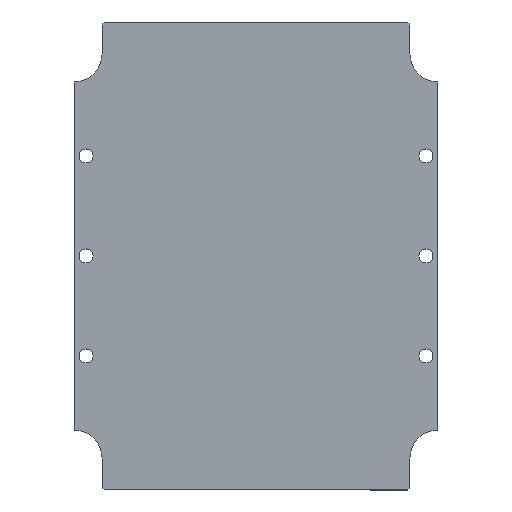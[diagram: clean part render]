
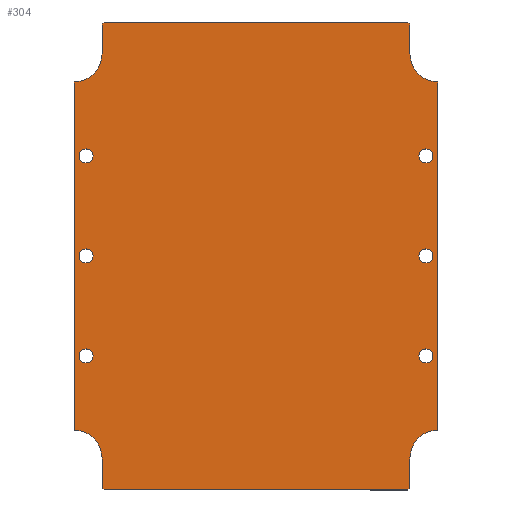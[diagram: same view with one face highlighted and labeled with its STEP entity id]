
A CAD part, top view. The second image highlights one B-rep face of the part: STEP entity #304.
In plain terms, the highlighted planar face has unit normal (0, 0, 1).
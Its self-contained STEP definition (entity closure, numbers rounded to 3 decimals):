
#59=CARTESIAN_POINT('',(-76.,-117.,0.0));
#60=VERTEX_POINT('',#59);
#67=CARTESIAN_POINT('',(-77.,-116.,0.0));
#68=VERTEX_POINT('',#67);
#69=CARTESIAN_POINT('',(-76.,-117.,0.0));
#70=DIRECTION('',(-0.707,0.707,0.0));
#71=VECTOR('',#70,1.414);
#72=LINE('',#69,#71);
#73=EDGE_CURVE('',#60,#68,#72,.T.);
#90=CARTESIAN_POINT('',(-77.,-101.,0.0));
#91=VERTEX_POINT('',#90);
#92=CARTESIAN_POINT('',(-77.,-116.,0.0));
#93=DIRECTION('',(0.0,1.0,0.0));
#94=VECTOR('',#93,15.);
#95=LINE('',#92,#94);
#96=EDGE_CURVE('',#68,#91,#95,.T.);
#115=CARTESIAN_POINT('',(0.,0.,0.0));
#116=DIRECTION('',(0.0,0.0,1.0));
#117=DIRECTION('',(1.0,0.0,0.0));
#118=AXIS2_PLACEMENT_3D('',#115,#116,#117);
#119=PLANE('',#118);
#120=ORIENTED_EDGE('',*,*,#73,.F.);
#121=CARTESIAN_POINT('',(76.,-117.,0.0));
#122=VERTEX_POINT('',#121);
#123=CARTESIAN_POINT('',(76.,-117.,0.0));
#124=DIRECTION('',(-1.0,0.0,0.0));
#125=VECTOR('',#124,152.);
#126=LINE('',#123,#125);
#127=EDGE_CURVE('',#122,#60,#126,.T.);
#128=ORIENTED_EDGE('',*,*,#127,.F.);
#129=CARTESIAN_POINT('',(77.,-116.,0.0));
#130=VERTEX_POINT('',#129);
#131=CARTESIAN_POINT('',(77.,-116.,0.0));
#132=DIRECTION('',(-0.707,-0.707,0.0));
#133=VECTOR('',#132,1.414);
#134=LINE('',#131,#133);
#135=EDGE_CURVE('',#130,#122,#134,.T.);
#136=ORIENTED_EDGE('',*,*,#135,.F.);
#137=CARTESIAN_POINT('',(77.,-101.,0.0));
#138=VERTEX_POINT('',#137);
#139=CARTESIAN_POINT('',(77.,-101.,0.0));
#140=DIRECTION('',(0.0,-1.0,0.0));
#141=VECTOR('',#140,15.0);
#142=LINE('',#139,#141);
#143=EDGE_CURVE('',#138,#130,#142,.T.);
#144=ORIENTED_EDGE('',*,*,#143,.F.);
#145=CARTESIAN_POINT('',(91.,-87.,0.0));
#146=VERTEX_POINT('',#145);
#147=CARTESIAN_POINT('',(91.,-101.,0.0));
#148=DIRECTION('',(0.0,0.0,1.0));
#149=DIRECTION('',(0.0,1.0,0.0));
#150=AXIS2_PLACEMENT_3D('',#147,#148,#149);
#151=CIRCLE('',#150,14.);
#152=EDGE_CURVE('',#146,#138,#151,.T.);
#153=ORIENTED_EDGE('',*,*,#152,.F.);
#154=CARTESIAN_POINT('',(91.,87.,0.0));
#155=VERTEX_POINT('',#154);
#156=CARTESIAN_POINT('',(91.,87.,0.0));
#157=DIRECTION('',(0.0,-1.0,0.0));
#158=VECTOR('',#157,174.);
#159=LINE('',#156,#158);
#160=EDGE_CURVE('',#155,#146,#159,.T.);
#161=ORIENTED_EDGE('',*,*,#160,.F.);
#162=CARTESIAN_POINT('',(77.,101.,0.0));
#163=VERTEX_POINT('',#162);
#164=CARTESIAN_POINT('',(91.,101.,0.0));
#165=DIRECTION('',(0.0,0.0,1.0));
#166=DIRECTION('',(-1.0,0.0,0.0));
#167=AXIS2_PLACEMENT_3D('',#164,#165,#166);
#168=CIRCLE('',#167,14.);
#169=EDGE_CURVE('',#163,#155,#168,.T.);
#170=ORIENTED_EDGE('',*,*,#169,.F.);
#171=CARTESIAN_POINT('',(77.,116.,0.0));
#172=VERTEX_POINT('',#171);
#173=CARTESIAN_POINT('',(77.,116.,0.0));
#174=DIRECTION('',(0.0,-1.0,0.0));
#175=VECTOR('',#174,15.0);
#176=LINE('',#173,#175);
#177=EDGE_CURVE('',#172,#163,#176,.T.);
#178=ORIENTED_EDGE('',*,*,#177,.F.);
#179=CARTESIAN_POINT('',(76.,117.,0.0));
#180=VERTEX_POINT('',#179);
#181=CARTESIAN_POINT('',(76.,117.,0.0));
#182=DIRECTION('',(0.707,-0.707,0.0));
#183=VECTOR('',#182,1.414);
#184=LINE('',#181,#183);
#185=EDGE_CURVE('',#180,#172,#184,.T.);
#186=ORIENTED_EDGE('',*,*,#185,.F.);
#187=CARTESIAN_POINT('',(-76.,117.,0.0));
#188=VERTEX_POINT('',#187);
#189=CARTESIAN_POINT('',(-76.,117.,0.0));
#190=DIRECTION('',(1.0,0.0,0.0));
#191=VECTOR('',#190,152.0);
#192=LINE('',#189,#191);
#193=EDGE_CURVE('',#188,#180,#192,.T.);
#194=ORIENTED_EDGE('',*,*,#193,.F.);
#195=CARTESIAN_POINT('',(-77.,116.,0.0));
#196=VERTEX_POINT('',#195);
#197=CARTESIAN_POINT('',(-77.,116.,0.0));
#198=DIRECTION('',(0.707,0.707,0.0));
#199=VECTOR('',#198,1.414);
#200=LINE('',#197,#199);
#201=EDGE_CURVE('',#196,#188,#200,.T.);
#202=ORIENTED_EDGE('',*,*,#201,.F.);
#203=CARTESIAN_POINT('',(-77.,101.,0.0));
#204=VERTEX_POINT('',#203);
#205=CARTESIAN_POINT('',(-77.,101.,0.0));
#206=DIRECTION('',(0.0,1.0,0.0));
#207=VECTOR('',#206,15.);
#208=LINE('',#205,#207);
#209=EDGE_CURVE('',#204,#196,#208,.T.);
#210=ORIENTED_EDGE('',*,*,#209,.F.);
#211=CARTESIAN_POINT('',(-91.,87.,0.0));
#212=VERTEX_POINT('',#211);
#213=CARTESIAN_POINT('',(-91.,101.,0.0));
#214=DIRECTION('',(0.0,0.0,1.0));
#215=DIRECTION('',(0.0,-1.0,0.0));
#216=AXIS2_PLACEMENT_3D('',#213,#214,#215);
#217=CIRCLE('',#216,14.);
#218=EDGE_CURVE('',#212,#204,#217,.T.);
#219=ORIENTED_EDGE('',*,*,#218,.F.);
#220=CARTESIAN_POINT('',(-91.,-87.,0.0));
#221=VERTEX_POINT('',#220);
#222=CARTESIAN_POINT('',(-91.,-87.,0.0));
#223=DIRECTION('',(0.0,1.0,0.0));
#224=VECTOR('',#223,174.);
#225=LINE('',#222,#224);
#226=EDGE_CURVE('',#221,#212,#225,.T.);
#227=ORIENTED_EDGE('',*,*,#226,.F.);
#228=CARTESIAN_POINT('',(-91.,-101.,0.0));
#229=DIRECTION('',(0.0,0.0,1.0));
#230=DIRECTION('',(1.0,0.0,0.0));
#231=AXIS2_PLACEMENT_3D('',#228,#229,#230);
#232=CIRCLE('',#231,14.);
#233=EDGE_CURVE('',#91,#221,#232,.T.);
#234=ORIENTED_EDGE('',*,*,#233,.F.);
#235=ORIENTED_EDGE('',*,*,#96,.F.);
#236=EDGE_LOOP('',(#120,#128,#136,#144,#153,#161,#170,#178,#186,#194,#202,#210,#219,#227,#234,#235));
#237=FACE_OUTER_BOUND('',#236,.T.);
#238=CARTESIAN_POINT('',(88.5,50.,0.0));
#239=VERTEX_POINT('',#238);
#240=CARTESIAN_POINT('',(85.,50.,0.0));
#241=DIRECTION('',(0.0,0.0,-1.0));
#242=DIRECTION('',(1.0,0.0,0.0));
#243=AXIS2_PLACEMENT_3D('',#240,#241,#242);
#244=CIRCLE('',#243,3.5);
#245=EDGE_CURVE('',#239,#239,#244,.T.);
#246=ORIENTED_EDGE('',*,*,#245,.T.);
#247=EDGE_LOOP('',(#246));
#248=FACE_BOUND('',#247,.T.);
#249=CARTESIAN_POINT('',(88.5,0.,0.0));
#250=VERTEX_POINT('',#249);
#251=CARTESIAN_POINT('',(85.,0.,0.0));
#252=DIRECTION('',(0.0,0.0,-1.0));
#253=DIRECTION('',(1.0,0.0,0.0));
#254=AXIS2_PLACEMENT_3D('',#251,#252,#253);
#255=CIRCLE('',#254,3.5);
#256=EDGE_CURVE('',#250,#250,#255,.T.);
#257=ORIENTED_EDGE('',*,*,#256,.T.);
#258=EDGE_LOOP('',(#257));
#259=FACE_BOUND('',#258,.T.);
#260=CARTESIAN_POINT('',(88.5,-50.,0.0));
#261=VERTEX_POINT('',#260);
#262=CARTESIAN_POINT('',(85.,-50.,0.0));
#263=DIRECTION('',(0.0,0.0,-1.0));
#264=DIRECTION('',(1.0,0.0,0.0));
#265=AXIS2_PLACEMENT_3D('',#262,#263,#264);
#266=CIRCLE('',#265,3.5);
#267=EDGE_CURVE('',#261,#261,#266,.T.);
#268=ORIENTED_EDGE('',*,*,#267,.T.);
#269=EDGE_LOOP('',(#268));
#270=FACE_BOUND('',#269,.T.);
#271=CARTESIAN_POINT('',(-81.5,-50.,0.0));
#272=VERTEX_POINT('',#271);
#273=CARTESIAN_POINT('',(-85.,-50.,0.0));
#274=DIRECTION('',(0.0,0.0,-1.0));
#275=DIRECTION('',(1.0,0.0,0.0));
#276=AXIS2_PLACEMENT_3D('',#273,#274,#275);
#277=CIRCLE('',#276,3.5);
#278=EDGE_CURVE('',#272,#272,#277,.T.);
#279=ORIENTED_EDGE('',*,*,#278,.T.);
#280=EDGE_LOOP('',(#279));
#281=FACE_BOUND('',#280,.T.);
#282=CARTESIAN_POINT('',(-81.5,0.,0.0));
#283=VERTEX_POINT('',#282);
#284=CARTESIAN_POINT('',(-85.,0.,0.0));
#285=DIRECTION('',(0.0,0.0,-1.0));
#286=DIRECTION('',(1.0,0.0,0.0));
#287=AXIS2_PLACEMENT_3D('',#284,#285,#286);
#288=CIRCLE('',#287,3.5);
#289=EDGE_CURVE('',#283,#283,#288,.T.);
#290=ORIENTED_EDGE('',*,*,#289,.T.);
#291=EDGE_LOOP('',(#290));
#292=FACE_BOUND('',#291,.T.);
#293=CARTESIAN_POINT('',(-81.5,50.,0.0));
#294=VERTEX_POINT('',#293);
#295=CARTESIAN_POINT('',(-85.,50.,0.0));
#296=DIRECTION('',(0.0,0.0,-1.0));
#297=DIRECTION('',(1.0,0.0,0.0));
#298=AXIS2_PLACEMENT_3D('',#295,#296,#297);
#299=CIRCLE('',#298,3.5);
#300=EDGE_CURVE('',#294,#294,#299,.T.);
#301=ORIENTED_EDGE('',*,*,#300,.T.);
#302=EDGE_LOOP('',(#301));
#303=FACE_BOUND('',#302,.T.);
#304=ADVANCED_FACE('',(#237,#248,#259,#270,#281,#292,#303),#119,.T.);
